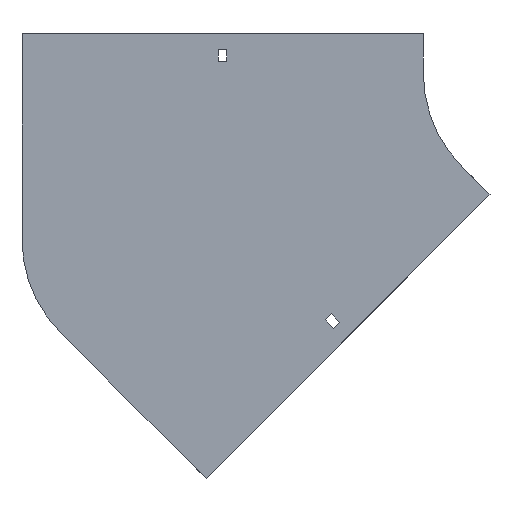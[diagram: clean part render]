
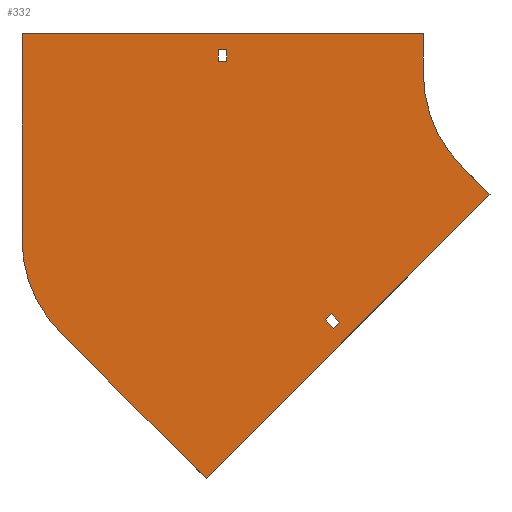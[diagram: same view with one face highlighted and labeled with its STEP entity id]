
A CAD part, front view. The second image highlights one B-rep face of the part: STEP entity #332.
In plain terms, the highlighted planar face has unit normal (0, -1, 0).
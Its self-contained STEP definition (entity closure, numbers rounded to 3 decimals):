
#18 = AXIS2_PLACEMENT_3D ( 'NONE', #490, #180, #642 ) ;
#66 = CARTESIAN_POINT ( 'NONE',  ( -404., 0., -125.921 ) ) ;
#74 = VECTOR ( 'NONE', #1785, 1000. ) ;
#76 = VECTOR ( 'NONE', #1367, 1000. ) ;
#99 = CARTESIAN_POINT ( 'NONE',  ( -174.125, 0., -186.853 ) ) ;
#100 = EDGE_LOOP ( 'NONE', ( #1306, #217, #1204, #1002 ) ) ;
#108 = DIRECTION ( 'NONE',  ( -0.707, 0., 0.707 ) ) ;
#110 = EDGE_CURVE ( 'NONE', #1939, #1913, #1302, .T. ) ;
#116 = VECTOR ( 'NONE', #1418, 1000. ) ;
#120 = VERTEX_POINT ( 'NONE', #1745 ) ;
#169 = VECTOR ( 'NONE', #258, 1000. ) ;
#177 = DIRECTION ( 'NONE',  ( 0.707, 0., -0.707 ) ) ;
#180 = DIRECTION ( 'NONE',  ( 0., 1., 0. ) ) ;
#182 = CARTESIAN_POINT ( 'NONE',  ( -248.75, 0., 9. ) ) ;
#198 = ORIENTED_EDGE ( 'NONE', *, *, #1869, .F. ) ;
#217 = ORIENTED_EDGE ( 'NONE', *, *, #1243, .T. ) ;
#220 = LINE ( 'NONE', #66, #76 ) ;
#224 = DIRECTION ( 'NONE',  ( -0.707, 0., -0.707 ) ) ;
#235 = DIRECTION ( 'NONE',  ( 0., 0., -1. ) ) ;
#258 = DIRECTION ( 'NONE',  ( 1., 0., 0. ) ) ;
#265 = EDGE_CURVE ( 'NONE', #1034, #1878, #725, .T. ) ;
#268 = DIRECTION ( 'NONE',  ( -0.707, 0., 0.707 ) ) ;
#282 = CARTESIAN_POINT ( 'NONE',  ( -100., 0., 30. ) ) ;
#330 = DIRECTION ( 'NONE',  ( 0.707, 0., 0.707 ) ) ;
#332 = ADVANCED_FACE ( 'NONE', ( #656, #630, #785 ), #1231, .T. ) ;
#387 = EDGE_CURVE ( 'NONE', #1935, #1348, #960, .T. ) ;
#398 = CARTESIAN_POINT ( 'NONE',  ( 0., 0., 0. ) ) ;
#404 = CIRCLE ( 'NONE', #739, 100. ) ;
#414 = CARTESIAN_POINT ( 'NONE',  ( -255.25, 0., 18. ) ) ;
#420 = VECTOR ( 'NONE', #177, 1000. ) ;
#421 = DIRECTION ( 'NONE',  ( 0., 0., -1. ) ) ;
#462 = ORIENTED_EDGE ( 'NONE', *, *, #1498, .F. ) ;
#471 = EDGE_CURVE ( 'NONE', #1758, #1939, #978, .T. ) ;
#479 = CARTESIAN_POINT ( 'NONE',  ( -255.25, 0., 9. ) ) ;
#482 = LINE ( 'NONE', #1803, #1733 ) ;
#487 = DIRECTION ( 'NONE',  ( 0., 0., -1. ) ) ;
#490 = CARTESIAN_POINT ( 'NONE',  ( -304., 0., -125.921 ) ) ;
#514 = CARTESIAN_POINT ( 'NONE',  ( -174.125, 0., -186.853 ) ) ;
#515 = EDGE_CURVE ( 'NONE', #120, #839, #881, .T. ) ;
#547 = EDGE_CURVE ( 'NONE', #1878, #613, #608, .T. ) ;
#549 = CARTESIAN_POINT ( 'NONE',  ( -255.25, 0., 9. ) ) ;
#567 = CARTESIAN_POINT ( 'NONE',  ( -167.761, 0., -193.217 ) ) ;
#588 = CARTESIAN_POINT ( 'NONE',  ( -248.75, 0., 18. ) ) ;
#590 = CARTESIAN_POINT ( 'NONE',  ( -49.497, 0., -91.924 ) ) ;
#599 = VERTEX_POINT ( 'NONE', #567 ) ;
#608 = LINE ( 'NONE', #590, #74 ) ;
#613 = VERTEX_POINT ( 'NONE', #1207 ) ;
#628 = VERTEX_POINT ( 'NONE', #792 ) ;
#630 = FACE_OUTER_BOUND ( 'NONE', #1888, .T. ) ;
#642 = DIRECTION ( 'NONE',  ( 0., 0., 1. ) ) ;
#654 = ORIENTED_EDGE ( 'NONE', *, *, #1768, .F. ) ;
#656 = FACE_BOUND ( 'NONE', #100, .T. ) ;
#659 = AXIS2_PLACEMENT_3D ( 'NONE', #1813, #1386, #487 ) ;
#688 = DIRECTION ( 'NONE',  ( 1., 0., 0. ) ) ;
#707 = LINE ( 'NONE', #414, #169 ) ;
#718 = VECTOR ( 'NONE', #268, 1000. ) ;
#725 = LINE ( 'NONE', #1256, #1128 ) ;
#739 = AXIS2_PLACEMENT_3D ( 'NONE', #398, #1591, #1754 ) ;
#762 = EDGE_CURVE ( 'NONE', #1624, #1935, #220, .T. ) ;
#785 = FACE_BOUND ( 'NONE', #1362, .T. ) ;
#792 = CARTESIAN_POINT ( 'NONE',  ( -374.711, 0., -196.632 ) ) ;
#815 = VECTOR ( 'NONE', #688, 1000. ) ;
#827 = CARTESIAN_POINT ( 'NONE',  ( -70.711, 0., -70.711 ) ) ;
#832 = LINE ( 'NONE', #1290, #1760 ) ;
#839 = VERTEX_POINT ( 'NONE', #1304 ) ;
#871 = ORIENTED_EDGE ( 'NONE', *, *, #1687, .F. ) ;
#878 = LINE ( 'NONE', #1193, #1488 ) ;
#881 = LINE ( 'NONE', #1006, #718 ) ;
#898 = VECTOR ( 'NONE', #108, 1000. ) ;
#944 = DIRECTION ( 'NONE',  ( 0.707, 0., -0.707 ) ) ;
#960 = LINE ( 'NONE', #1148, #815 ) ;
#978 = LINE ( 'NONE', #1582, #1892 ) ;
#1002 = ORIENTED_EDGE ( 'NONE', *, *, #110, .T. ) ;
#1006 = CARTESIAN_POINT ( 'NONE',  ( -169.529, 0., -182.257 ) ) ;
#1034 = VERTEX_POINT ( 'NONE', #827 ) ;
#1063 = EDGE_CURVE ( 'NONE', #628, #1624, #1809, .T. ) ;
#1100 = VERTEX_POINT ( 'NONE', #1709 ) ;
#1106 = ORIENTED_EDGE ( 'NONE', *, *, #1063, .F. ) ;
#1128 = VECTOR ( 'NONE', #944, 1000. ) ;
#1148 = CARTESIAN_POINT ( 'NONE',  ( -404., 0., 30. ) ) ;
#1149 = DIRECTION ( 'NONE',  ( -1., 0., 0. ) ) ;
#1159 = EDGE_CURVE ( 'NONE', #1913, #1879, #1549, .T. ) ;
#1188 = EDGE_CURVE ( 'NONE', #1100, #1034, #404, .T. ) ;
#1193 = CARTESIAN_POINT ( 'NONE',  ( -100., 0., 30. ) ) ;
#1204 = ORIENTED_EDGE ( 'NONE', *, *, #471, .T. ) ;
#1207 = CARTESIAN_POINT ( 'NONE',  ( -264.458, 0., -306.884 ) ) ;
#1231 = PLANE ( 'NONE',  #659 ) ;
#1243 = EDGE_CURVE ( 'NONE', #1879, #1758, #707, .T. ) ;
#1256 = CARTESIAN_POINT ( 'NONE',  ( -70.711, 0., -70.711 ) ) ;
#1257 = LINE ( 'NONE', #514, #420 ) ;
#1290 = CARTESIAN_POINT ( 'NONE',  ( -174.125, 0., -186.853 ) ) ;
#1302 = LINE ( 'NONE', #549, #1544 ) ;
#1304 = CARTESIAN_POINT ( 'NONE',  ( -169.529, 0., -182.257 ) ) ;
#1306 = ORIENTED_EDGE ( 'NONE', *, *, #1159, .T. ) ;
#1329 = ORIENTED_EDGE ( 'NONE', *, *, #265, .F. ) ;
#1348 = VERTEX_POINT ( 'NONE', #282 ) ;
#1362 = EDGE_LOOP ( 'NONE', ( #198, #462, #871, #1862 ) ) ;
#1367 = DIRECTION ( 'NONE',  ( 0., 0., 1. ) ) ;
#1386 = DIRECTION ( 'NONE',  ( 0., -1., 0. ) ) ;
#1418 = DIRECTION ( 'NONE',  ( 0., 0., 1. ) ) ;
#1440 = ORIENTED_EDGE ( 'NONE', *, *, #1764, .F. ) ;
#1449 = LINE ( 'NONE', #1751, #898 ) ;
#1455 = ORIENTED_EDGE ( 'NONE', *, *, #1188, .F. ) ;
#1470 = ORIENTED_EDGE ( 'NONE', *, *, #547, .F. ) ;
#1488 = VECTOR ( 'NONE', #421, 1000. ) ;
#1489 = ORIENTED_EDGE ( 'NONE', *, *, #762, .F. ) ;
#1498 = EDGE_CURVE ( 'NONE', #1782, #599, #1257, .T. ) ;
#1505 = CARTESIAN_POINT ( 'NONE',  ( -255.25, 0., 9. ) ) ;
#1530 = CARTESIAN_POINT ( 'NONE',  ( -404., 0., 30. ) ) ;
#1544 = VECTOR ( 'NONE', #1149, 1000. ) ;
#1549 = LINE ( 'NONE', #479, #116 ) ;
#1582 = CARTESIAN_POINT ( 'NONE',  ( -248.75, 0., 9. ) ) ;
#1591 = DIRECTION ( 'NONE',  ( 0., -1., 0. ) ) ;
#1624 = VERTEX_POINT ( 'NONE', #1723 ) ;
#1666 = CARTESIAN_POINT ( 'NONE',  ( -255.25, 0., 18. ) ) ;
#1687 = EDGE_CURVE ( 'NONE', #839, #1782, #832, .T. ) ;
#1709 = CARTESIAN_POINT ( 'NONE',  ( -100., 0., 0. ) ) ;
#1723 = CARTESIAN_POINT ( 'NONE',  ( -404., 0., -125.921 ) ) ;
#1733 = VECTOR ( 'NONE', #330, 1000. ) ;
#1745 = CARTESIAN_POINT ( 'NONE',  ( -163.165, 0., -188.621 ) ) ;
#1751 = CARTESIAN_POINT ( 'NONE',  ( -264.458, 0., -306.884 ) ) ;
#1754 = DIRECTION ( 'NONE',  ( 0., 0., -1. ) ) ;
#1758 = VERTEX_POINT ( 'NONE', #588 ) ;
#1760 = VECTOR ( 'NONE', #224, 1000. ) ;
#1764 = EDGE_CURVE ( 'NONE', #1348, #1100, #878, .T. ) ;
#1768 = EDGE_CURVE ( 'NONE', #613, #628, #1449, .T. ) ;
#1782 = VERTEX_POINT ( 'NONE', #99 ) ;
#1785 = DIRECTION ( 'NONE',  ( -0.707, 0., -0.707 ) ) ;
#1792 = CARTESIAN_POINT ( 'NONE',  ( -49.497, 0., -91.924 ) ) ;
#1803 = CARTESIAN_POINT ( 'NONE',  ( -167.761, 0., -193.217 ) ) ;
#1809 = CIRCLE ( 'NONE', #18, 100. ) ;
#1813 = CARTESIAN_POINT ( 'NONE',  ( 0., 0., 0. ) ) ;
#1862 = ORIENTED_EDGE ( 'NONE', *, *, #515, .F. ) ;
#1869 = EDGE_CURVE ( 'NONE', #599, #120, #482, .T. ) ;
#1878 = VERTEX_POINT ( 'NONE', #1792 ) ;
#1879 = VERTEX_POINT ( 'NONE', #1666 ) ;
#1888 = EDGE_LOOP ( 'NONE', ( #1890, #1489, #1106, #654, #1470, #1329, #1455, #1440 ) ) ;
#1890 = ORIENTED_EDGE ( 'NONE', *, *, #387, .F. ) ;
#1892 = VECTOR ( 'NONE', #235, 1000. ) ;
#1913 = VERTEX_POINT ( 'NONE', #1505 ) ;
#1935 = VERTEX_POINT ( 'NONE', #1530 ) ;
#1939 = VERTEX_POINT ( 'NONE', #182 ) ;
